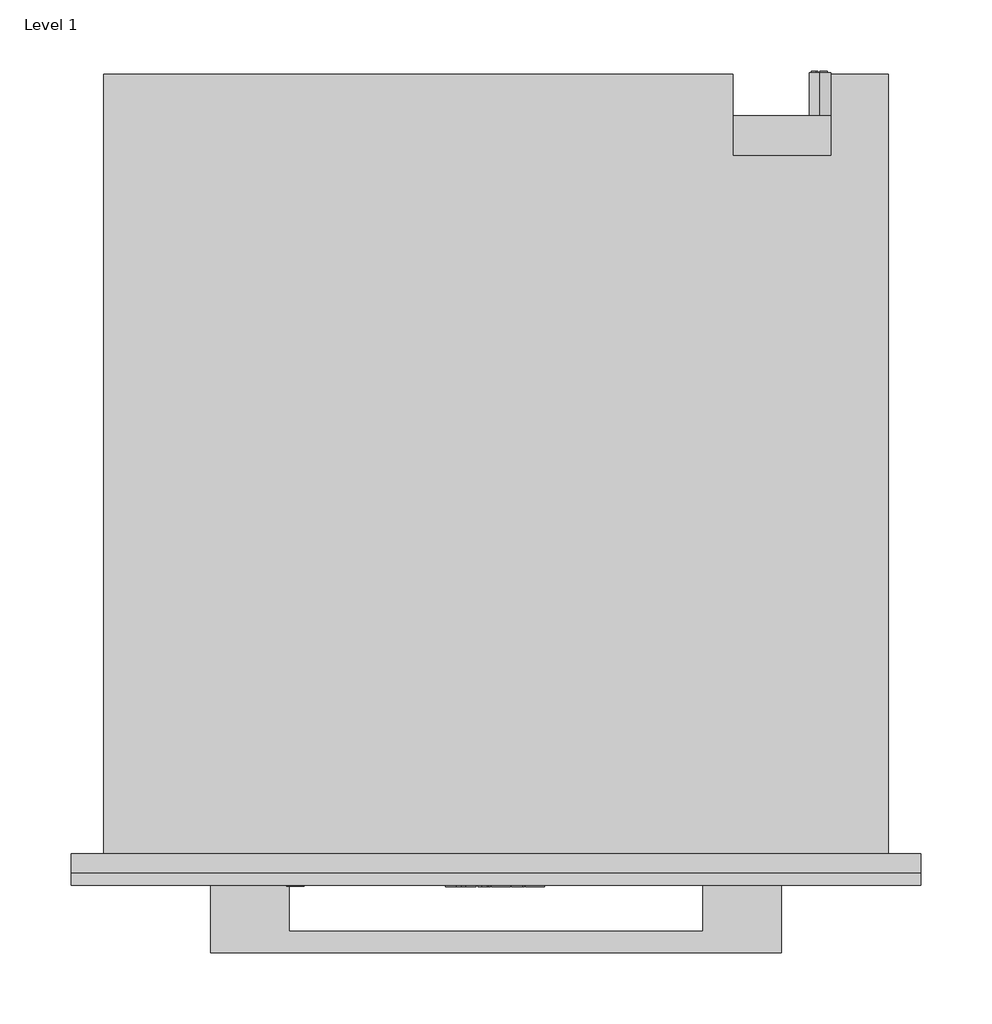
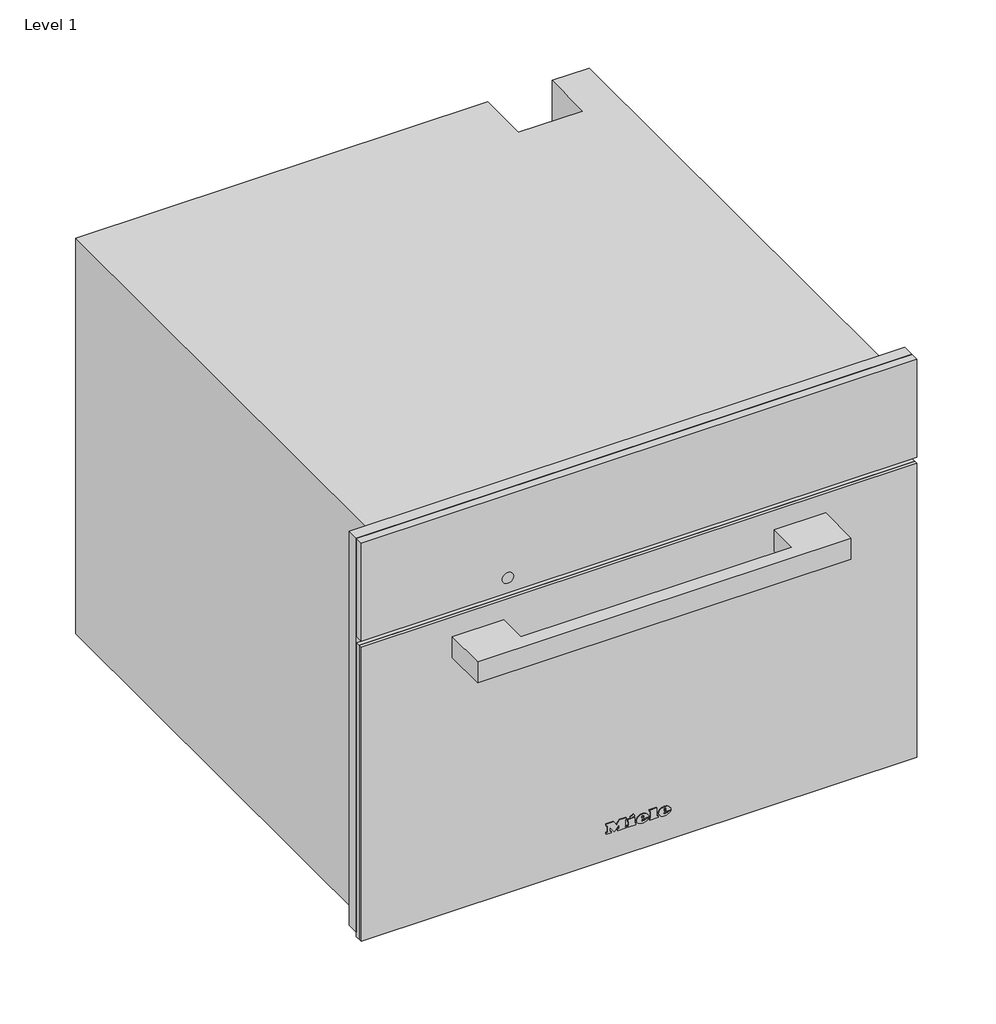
# One storey: 1 proxy.
"""IFC4 building model written with IfcOpenShell, lengths in millimetres."""

import ifcopenshell
import ifcopenshell.guid

model = None  # the IFC model being written
_history = None  # IfcOwnerHistory: only IFC2X3 demands one
_inside = {}  # id of a spatial element -> (the spatial element, [elements in it])
_under = {}  # id of a project, library or spatial element -> (it, [spatial elements below it])
_declared = {}  # id of a project -> (the project, [libraries it declares])
_typed = {}  # id of a type object -> (the type object, [elements of that type])
_made_of = {}  # id of a material, layer set ... -> (it, [elements and type objects made of it])


def new_model(schema):
    """Start an empty IFC model of exactly this schema.

    Asked for "IFC4X3", IfcOpenShell would pick the latest addendum, in which some entities
    have other attributes; the version numbers below select the first issue.
    IFC2X3 requires an IfcOwnerHistory on every rooted entity: one is made here for all.
    """
    global model, _history
    if schema == "IFC4X3":
        model = ifcopenshell.file(schema_version=(4, 3, 0, 0))
    else:
        model = ifcopenshell.file(schema=schema)
    _inside.clear()
    _under.clear()
    _declared.clear()
    _typed.clear()
    _made_of.clear()
    _history = None
    if model.schema == "IFC2X3":
        org = make("IfcOrganization", Name="unknown")
        user = make(
            "IfcPersonAndOrganization",
            ThePerson=make("IfcPerson", FamilyName="unknown"),
            TheOrganization=org,
        )
        app = make(
            "IfcApplication",
            ApplicationDeveloper=org,
            Version="unknown",
            ApplicationFullName="unknown",
            ApplicationIdentifier="unknown",
        )
        _history = make(
            "IfcOwnerHistory",
            OwningUser=user,
            OwningApplication=app,
            ChangeAction="ADDED",
            CreationDate=0,
        )
    return model


def make(cls, **values):
    """One entity of the class cls with the attributes given. An attribute that is None is left unset."""
    return model.create_entity(
        cls, **{name: value for name, value in values.items() if value is not None}
    )


def rooted(cls, **values):
    """An entity with a GlobalId (a new one), such as an element, a storey or a relation."""
    return make(cls, GlobalId=ifcopenshell.guid.new(), OwnerHistory=_history, **values)


def si_unit(unit_type, name, prefix=None):
    """IfcSIUnit, for example si_unit("LENGTHUNIT", "METRE", prefix="MILLI")."""
    return make("IfcSIUnit", UnitType=unit_type, Prefix=prefix, Name=name)


def assignment(units):
    """IfcUnitAssignment: the units of a project."""
    return None if units is None else make("IfcUnitAssignment", Units=units)


def point(xyz):
    """IfcCartesianPoint."""
    return None if xyz is None else make("IfcCartesianPoint", Coordinates=xyz)


def direction(xyz):
    """IfcDirection."""
    return None if xyz is None else make("IfcDirection", DirectionRatios=xyz)


def frame(location, z_axis=None, x_axis=None):
    """IfcAxis2Placement3D, a coordinate frame: its origin and axes. An axis left out is left unset."""
    return make(
        "IfcAxis2Placement3D",
        Location=point(location),
        Axis=direction(z_axis),
        RefDirection=direction(x_axis),
    )


def frame_2d(location, x_axis=None):
    """IfcAxis2Placement2D, a coordinate frame in the plane: its origin and x axis."""
    return make(
        "IfcAxis2Placement2D", Location=point(location), RefDirection=direction(x_axis)
    )


def origin():
    """The frame at (0, 0, 0) with its axes left unset."""
    return frame((0.0, 0.0, 0.0))


def place(relative_to, where):
    """IfcLocalPlacement: puts the frame where relative to a parent placement (None: the world)."""
    return make(
        "IfcLocalPlacement", PlacementRelTo=relative_to, RelativePlacement=where
    )


def context(
    kind, dimensions, precision=None, world=None, true_north=None, identifier=None
):
    """IfcGeometricRepresentationContext, for example the 3D "Model" context."""
    return make(
        "IfcGeometricRepresentationContext",
        ContextIdentifier=identifier,
        ContextType=kind,
        CoordinateSpaceDimension=dimensions,
        Precision=precision,
        WorldCoordinateSystem=world,
        TrueNorth=true_north,
    )


def project(units=None, contexts=None):
    """IfcProject with its units and contexts."""
    return rooted(
        "IfcProject",
        Name="project",
        RepresentationContexts=contexts,
        UnitsInContext=assignment(units),
    )


def spatial(cls, under=None, at=None, **own):
    """A site, building, storey or space (cls), placed at a placement, below another one or the project."""
    s = rooted(cls, ObjectPlacement=at, **own)
    if under is not None:
        _under.setdefault(under.id(), (under, []))[1].append(s)
    return s


def polyline(points):
    """IfcPolyline through the points."""
    return make("IfcPolyline", Points=[point(p) for p in points])


def circle_curve(where, radius):
    """IfcCircle in the frame where."""
    return make("IfcCircle", Position=where, Radius=radius)


def ellipse_curve(where, semi_axis1, semi_axis2):
    """IfcEllipse in the frame where."""
    return make(
        "IfcEllipse", Position=where, SemiAxis1=semi_axis1, SemiAxis2=semi_axis2
    )


def trimmed(basis, trim1, trim2, sense, master):
    """IfcTrimmedCurve: the piece of a basis curve between two trims."""
    return make(
        "IfcTrimmedCurve",
        BasisCurve=basis,
        Trim1=trim1,
        Trim2=trim2,
        SenseAgreement=sense,
        MasterRepresentation=master,
    )


def segment(curve, same_sense, transition):
    """IfcCompositeCurveSegment."""
    return make(
        "IfcCompositeCurveSegment",
        Transition=transition,
        SameSense=same_sense,
        ParentCurve=curve,
    )


def composite_curve(segments, self_intersect=None):
    """IfcCompositeCurve: segments joined end to end."""
    return make("IfcCompositeCurve", Segments=segments, SelfIntersect=self_intersect)


def outline(outer, holes=None, kind="AREA"):
    """IfcArbitraryClosedProfileDef: a profile drawn as a closed curve; with holes, ...WithVoids."""
    if holes is None:
        return make("IfcArbitraryClosedProfileDef", ProfileType=kind, OuterCurve=outer)
    return make(
        "IfcArbitraryProfileDefWithVoids",
        ProfileType=kind,
        OuterCurve=outer,
        InnerCurves=holes,
    )


def extrude(swept, where, along, depth):
    """IfcExtrudedAreaSolid: the profile swept, set in the frame where, extruded along a direction by depth."""
    return make(
        "IfcExtrudedAreaSolid",
        SweptArea=swept,
        Position=where,
        ExtrudedDirection=direction(along),
        Depth=depth,
    )


def faces_of(points, faces, orient=None, outer=None):
    """IfcFace entities. A face is a list of loops; a loop is a list of indices into points, from 0.

    orient and outer hold one flag for each loop. By default every Orientation is true, the
    first loop of a face is its IfcFaceOuterBound and the others are IfcFaceBound.
    """
    made = []
    for i, loops in enumerate(faces):
        bounds = []
        for j, loop in enumerate(loops):
            is_outer = j == 0 if outer is None else outer[i][j]
            bounds.append(
                make(
                    "IfcFaceOuterBound" if is_outer else "IfcFaceBound",
                    Bound=make("IfcPolyLoop", Polygon=[points[k] for k in loop]),
                    Orientation=True if orient is None else orient[i][j],
                )
            )
        made.append(make("IfcFace", Bounds=bounds))
    return made


def faceted_brep(points, faces, orient=None, outer=None, voids=None):
    """IfcFacetedBrep: a solid bounded by flat faces; with voids (closed shells), ...WithVoids."""
    shared = [point(p) for p in points]
    hull = make("IfcClosedShell", CfsFaces=faces_of(shared, faces, orient, outer))
    if voids is None:
        return make("IfcFacetedBrep", Outer=hull)
    return make(
        "IfcFacetedBrepWithVoids",
        Outer=hull,
        Voids=[
            make(cls, CfsFaces=faces_of(shared, fs, o, b)) for cls, fs, o, b in voids
        ],
    )


def shape(context_of_items, identifier, shape_type, items):
    """IfcShapeRepresentation: the items that make up one representation, for example the "Body"."""
    return make(
        "IfcShapeRepresentation",
        ContextOfItems=context_of_items,
        RepresentationIdentifier=identifier,
        RepresentationType=shape_type,
        Items=items,
    )


def source(mapping_origin, context_of_items, identifier, shape_type, items):
    """IfcRepresentationMap: a shape defined once, which mapped items show again and again."""
    return make(
        "IfcRepresentationMap",
        MappingOrigin=mapping_origin,
        MappedRepresentation=shape(context_of_items, identifier, shape_type, items),
    )


def transform(
    local_origin,
    x_axis=None,
    y_axis=None,
    z_axis=None,
    scale=None,
    scale2=None,
    scale3=None,
    uniform=True,
):
    """IfcCartesianTransformationOperator3D, or its non-uniform kind. x_axis, y_axis, z_axis: its Axis1, 2, 3."""
    if uniform:
        return make(
            "IfcCartesianTransformationOperator3D",
            Axis1=direction(x_axis),
            Axis2=direction(y_axis),
            LocalOrigin=point(local_origin),
            Scale=scale,
            Axis3=direction(z_axis),
        )
    return make(
        "IfcCartesianTransformationOperator3DnonUniform",
        Axis1=direction(x_axis),
        Axis2=direction(y_axis),
        LocalOrigin=point(local_origin),
        Scale=scale,
        Axis3=direction(z_axis),
        Scale2=scale2,
        Scale3=scale3,
    )


def mapped(mapping_source, mapping_target):
    """IfcMappedItem: shows the shape of a source again, moved by a transform."""
    return make(
        "IfcMappedItem", MappingSource=mapping_source, MappingTarget=mapping_target
    )


def made_of(thing, what):
    """Note that an element or type object is made of a material, layer set ...; save() writes the relation."""
    if what is not None:
        _made_of.setdefault(what.id(), (what, []))[1].append(thing)
    return thing


def element(
    cls,
    number,
    at=None,
    inside=None,
    cuts=None,
    type_object=None,
    material=None,
    context=None,
    identifier="Body",
    shape_type=None,
    held_by="IfcProductDefinitionShape",
    body=None,
    shapes=None,
    **own,
):
    """One element of the class cls, such as IfcWall. Its Tag is "e" and its number.

    at: its placement. inside: the storey or other place that contains it. cuts: it is an
    opening in that element (IfcRelVoidsElement). A single representation is given by context,
    identifier, shape_type and body (its items); several are given by shapes. held_by: the class
    of the entity that holds the representations. save() writes the other relations.
    """
    e = rooted(cls, Tag="e%d" % number, ObjectPlacement=at, **own)
    if body is not None:
        shapes = [shape(context, identifier, shape_type, body)]
    if shapes is not None:
        e.Representation = make(held_by, Representations=shapes)
    if inside is not None:
        _inside.setdefault(inside.id(), (inside, []))[1].append(e)
    if cuts is not None:
        rooted(
            "IfcRelVoidsElement", RelatingBuildingElement=cuts, RelatedOpeningElement=e
        )
    if type_object is not None:
        _typed.setdefault(type_object.id(), (type_object, []))[1].append(e)
    return made_of(e, material)


def aggregate(whole, parts):
    """IfcRelAggregates: a whole, such as a stair, and the parts it consists of."""
    return rooted("IfcRelAggregates", RelatingObject=whole, RelatedObjects=parts)


def save(model, path):
    """Write the relations noted so far, then the file.

    IfcRelAggregates (storeys below a building ...), IfcRelContainedInSpatialStructure (elements
    in a storey), IfcRelDefinesByType, IfcRelAssociatesMaterial and IfcRelDeclares: one each for
    every whole, place, type object, material and project.
    """
    for whole, parts in _under.values():
        aggregate(whole, parts)
    for where, things in _inside.values():
        rooted(
            "IfcRelContainedInSpatialStructure",
            RelatedElements=things,
            RelatingStructure=where,
        )
    for kind, things in _typed.values():
        rooted("IfcRelDefinesByType", RelatedObjects=things, RelatingType=kind)
    for what, things in _made_of.values():
        rooted("IfcRelAssociatesMaterial", RelatedObjects=things, RelatingMaterial=what)
    for by, libraries in _declared.values():
        rooted("IfcRelDeclares", RelatingContext=by, RelatedDefinitions=libraries)
    model.write(path)


def plane_surface(at):
    """IfcPlane: the flat surface through the origin of the frame at, square to its z axis."""
    return make("IfcPlane", Position=at)


def cylinder_surface(at, radius):
    """IfcCylindricalSurface: all points at the distance radius from the z axis of the frame at."""
    return make("IfcCylindricalSurface", Position=at, Radius=radius)


def revolved_surface(curve, axis_point, axis_direction):
    """IfcSurfaceOfRevolution: the curve turned about the line through axis_point along axis_direction."""
    return make(
        "IfcSurfaceOfRevolution",
        SweptCurve=make("IfcArbitraryOpenProfileDef", ProfileType="CURVE", Curve=curve),
        AxisPosition=make("IfcAxis1Placement", Location=point(axis_point), Axis=direction(axis_direction)),
    )


def extruded_surface(curve, direction_of_extrusion, depth):
    """IfcSurfaceOfLinearExtrusion: the curve pushed along a direction by depth."""
    return make(
        "IfcSurfaceOfLinearExtrusion",
        SweptCurve=make("IfcArbitraryOpenProfileDef", ProfileType="CURVE", Curve=curve),
        ExtrudedDirection=direction(direction_of_extrusion),
        Depth=depth,
    )


def advanced_brep(points, edges, surfaces, faces):
    """IfcAdvancedBrep: a solid bounded by faces that lie on surfaces and meet in shared edges.

    An edge is (start, end): straight between two places in points (the first is 0);
    or (start, end, curve); or (start, end, curve, False) where it runs against its curve.
    A face is (place in surfaces, loops), or (place, loops, False) where it looks against
    its surface's normal. A loop lists edges by number (the first is 1), with a minus sign
    where the edge is run from its end to its start. The first loop is the outer one.
    """
    corners = [point(p) for p in points]
    vertices = [make("IfcVertexPoint", VertexGeometry=c) for c in corners]
    made = []
    for start, end, *more in edges:
        made.append(
            make(
                "IfcEdgeCurve",
                EdgeStart=vertices[start],
                EdgeEnd=vertices[end],
                EdgeGeometry=more[0] if more else make("IfcPolyline", Points=[corners[start], corners[end]]),
                SameSense=more[1] if len(more) > 1 else True,
            )
        )
    hull = []
    for where, loops, *sense in faces:
        bounds = []
        for j, loop in enumerate(loops):
            ring = [make("IfcOrientedEdge", EdgeElement=made[abs(k) - 1], Orientation=k > 0) for k in loop]
            bounds.append(
                make(
                    "IfcFaceOuterBound" if j == 0 else "IfcFaceBound",
                    Bound=make("IfcEdgeLoop", EdgeList=ring),
                    Orientation=True,
                )
            )
        hull.append(make("IfcAdvancedFace", Bounds=bounds, FaceSurface=surfaces[where], SameSense=sense[0] if sense else True))
    return make("IfcAdvancedBrep", Outer=make("IfcClosedShell", CfsFaces=hull))


def specialty_equipment_21fb220e(model_context):
    return source(origin(), model_context, "Body", "SolidModel", [
        extrude(outline(polyline([(455.0, 297.5), (455.0, -297.5), (9.0, -297.5), (9.0, 297.5), (455.0, 297.5)]), holes=[polyline([(344.0, -272.5), (344.0, 272.5), (27.0, 272.5), (27.0, -272.5), (344.0, -272.5)])]), frame((0.0, -13.0, 0.0), z_axis=(0.0, 1.0, 0.0), x_axis=(0.0, 0.0, 1.0)), (0.0, 0.0, 1.0), 13.0),
        advanced_brep(
        [(227.0, 547.0, 255.5), (227.0, 547.0, 240.5), (221.4098301, 547.0, 243.0), (225.5, 547.0, 243.0), (225.5, 547.0, 253.0), (224.4955303, 547.0, 253.0), (224.4955303, 547.0, 244.0), (221.0315043, 547.0, 244.0), (221.0315043, 547.0, 243.4582978), (232.0, 547.0, 243.0), (232.0, 547.0, 253.0), (227.0, 547.0, 253.0), (227.0, 547.0, 252.0), (231.0, 547.0, 252.0), (231.0, 547.0, 248.5), (228.0, 547.0, 248.5), (228.0, 547.0, 247.5), (231.0, 547.0, 247.5), (231.0, 547.0, 244.0), (227.0, 547.0, 244.0), (227.0, 547.0, 243.0), (227.0, 517.0, 240.5), (227.0, 517.0, 255.5), (232.0, 548.0, 253.0), (232.0, 548.0, 243.0), (227.0, 548.0, 243.0), (227.0, 548.0, 244.0), (231.0, 548.0, 244.0), (231.0, 548.0, 247.5), (228.0, 548.0, 247.5), (228.0, 548.0, 248.5), (231.0, 548.0, 248.5), (231.0, 548.0, 252.0), (227.0, 548.0, 252.0), (227.0, 548.0, 253.0), (225.5, 548.0, 243.0), (221.0315043, 548.0, 243.0), (221.0315043, 548.0, 244.0), (224.4955303, 548.0, 244.0), (224.4955303, 548.0, 253.0), (225.5, 548.0, 253.0), (221.0315043, 547.0, 243.0)],
        [
            (0, 1, circle_curve(frame((227.0, 547.0, 248.0), z_axis=(0.0, 1.0, 0.0), x_axis=(0.0, 0.0, 1.0)), 7.5)),
            (1, 2, circle_curve(frame((227.0, 547.0, 248.0), z_axis=(0.0, 1.0, 0.0), x_axis=(0.0, 0.0, 1.0)), 7.5)),
            (2, 3),
            (3, 4),
            (4, 5),
            (5, 6),
            (6, 7),
            (7, 8),
            (8, 0, circle_curve(frame((227.0, 547.0, 248.0), z_axis=(0.0, 1.0, 0.0), x_axis=(0.0, 0.0, 1.0)), 7.5)),
            (9, 10),
            (10, 11),
            (11, 12),
            (12, 13),
            (13, 14),
            (14, 15),
            (15, 16),
            (16, 17),
            (17, 18),
            (18, 19),
            (19, 20),
            (20, 9),
            (21, 22, circle_curve(frame((227.0, 517.0, 248.0), z_axis=(0.0, -1.0, 0.0), x_axis=(0.0, 0.0, 1.0)), 7.5)),
            (22, 21, circle_curve(frame((227.0, 517.0, 248.0), z_axis=(0.0, -1.0, 0.0), x_axis=(0.0, 0.0, 1.0)), 7.5)),
            (0, 22),
            (21, 1),
            (8, 2, circle_curve(frame((227.0, 547.0, 248.0), z_axis=(0.0, -1.0, 0.0), x_axis=(0.0, 0.0, 1.0)), 7.5)),
            (23, 24),
            (24, 25),
            (25, 26),
            (26, 27),
            (27, 28),
            (28, 29),
            (29, 30),
            (30, 31),
            (31, 32),
            (32, 33),
            (33, 34),
            (34, 23),
            (35, 36),
            (36, 37),
            (37, 38),
            (38, 39),
            (39, 40),
            (40, 35),
            (8, 41),
            (41, 2),
            (23, 10),
            (9, 24),
            (20, 25),
            (19, 26),
            (18, 27),
            (17, 28),
            (16, 29),
            (15, 30),
            (14, 31),
            (13, 32),
            (12, 33),
            (11, 34),
            (35, 3),
            (41, 36),
            (7, 37),
            (6, 38),
            (5, 39),
            (4, 40),
        ],
        [
            plane_surface(frame((227.0, 547.0, 255.5), z_axis=(0.0, 1.0, 0.0), x_axis=(1.0, 0.0, 0.0))),
            plane_surface(frame((227.0, 517.0, 255.5), z_axis=(0.0, -1.0, 0.0), x_axis=(-1.0, 0.0, 0.0))),
            cylinder_surface(frame((227.0, 547.0, 248.0), z_axis=(0.0, -1.0, 0.0), x_axis=(0.0, 0.0, 1.0)), 7.5),
            plane_surface(frame((232.0, 548.0, 253.0), z_axis=(0.0, 1.0, 0.0), x_axis=(0.0, 0.0, -1.0))),
            plane_surface(frame((232.0, 547.0, 253.0), z_axis=(0.0, -1.0, 0.0), x_axis=(0.0, 0.0, 1.0))),
            plane_surface(frame((232.0, 548.0, 253.0), z_axis=(1.0, 0.0, 0.0), x_axis=(0.0, -1.0, 0.0))),
            plane_surface(frame((232.0, 548.0, 243.0), z_axis=(0.0, 0.0, -1.0), x_axis=(0.0, -1.0, 0.0))),
            plane_surface(frame((227.0, 548.0, 243.0), z_axis=(-1.0, 0.0, 0.0), x_axis=(0.0, -1.0, 0.0))),
            plane_surface(frame((227.0, 548.0, 244.0), z_axis=(0.0, 0.0, 1.0), x_axis=(0.0, -1.0, 0.0))),
            plane_surface(frame((231.0, 548.0, 244.0), z_axis=(-1.0, 0.0, 0.0), x_axis=(0.0, -1.0, 0.0))),
            plane_surface(frame((231.0, 548.0, 247.5), z_axis=(0.0, 0.0, -1.0), x_axis=(0.0, -1.0, 0.0))),
            plane_surface(frame((228.0, 548.0, 247.5), z_axis=(-1.0, 0.0, 0.0), x_axis=(0.0, -1.0, 0.0))),
            plane_surface(frame((228.0, 548.0, 248.5), z_axis=(0.0, 0.0, 1.0), x_axis=(0.0, -1.0, 0.0))),
            plane_surface(frame((231.0, 548.0, 248.5), z_axis=(-1.0, 0.0, 0.0), x_axis=(0.0, -1.0, 0.0))),
            plane_surface(frame((231.0, 548.0, 252.0), z_axis=(0.0, 0.0, -1.0), x_axis=(0.0, -1.0, 0.0))),
            plane_surface(frame((227.0, 548.0, 252.0), z_axis=(-1.0, 0.0, 0.0), x_axis=(0.0, -1.0, 0.0))),
            plane_surface(frame((227.0, 548.0, 253.0), z_axis=(0.0, 0.0, 1.0), x_axis=(0.0, -1.0, 0.0))),
            plane_surface(frame((225.5, 548.0, 243.0), z_axis=(0.0, 0.0, -1.0), x_axis=(0.0, -1.0, 0.0))),
            plane_surface(frame((221.0315043, 548.0, 243.0), z_axis=(-1.0, 0.0, 0.0), x_axis=(0.0, -1.0, 0.0))),
            plane_surface(frame((221.0315043, 548.0, 244.0), z_axis=(0.0, 0.0, 1.0), x_axis=(0.0, -1.0, 0.0))),
            plane_surface(frame((224.4955303, 548.0, 244.0), z_axis=(-1.0, 0.0, 0.0), x_axis=(0.0, -1.0, 0.0))),
            plane_surface(frame((224.4955303, 548.0, 253.0), z_axis=(0.0, 0.0, 1.0), x_axis=(0.0, -1.0, 0.0))),
            plane_surface(frame((225.5, 548.0, 253.0), z_axis=(1.0, 0.0, 0.0), x_axis=(0.0, -1.0, 0.0))),
        ],
        [
            (0, [[1, 2, 3, 4, 5, 6, 7, 8, 9], [10, 11, 12, 13, 14, 15, 16, 17, 18, 19, 20, 21]]),
            (1, [[22, 23]]),
            (2, [[-1, 24, -22, 25]]),
            (2, [[-23, -24, -9, 26, -2, -25]]),
            (3, [[27, 28, 29, 30, 31, 32, 33, 34, 35, 36, 37, 38]]),
            (3, [[39, 40, 41, 42, 43, 44]]),
            (4, [[45, 46, -26]]),
            (5, [[-27, 47, -10, 48]]),
            (6, [[-28, -48, -21, 49]]),
            (7, [[-29, -49, -20, 50]]),
            (8, [[-30, -50, -19, 51]]),
            (9, [[-31, -51, -18, 52]]),
            (10, [[-32, -52, -17, 53]]),
            (11, [[-33, -53, -16, 54]]),
            (12, [[-34, -54, -15, 55]]),
            (13, [[-35, -55, -14, 56]]),
            (14, [[-36, -56, -13, 57]]),
            (15, [[-37, -57, -12, 58]]),
            (16, [[-38, -58, -11, -47]]),
            (17, [[-39, 59, -3, -46, 60]]),
            (18, [[-40, -60, -45, -8, 61]]),
            (19, [[-41, -61, -7, 62]]),
            (20, [[-42, -62, -6, 63]]),
            (21, [[-43, -63, -5, 64]]),
            (22, [[-44, -64, -4, -59]]),
        ],
    ),
        faceted_brep([(-275.0, 546.0, 0.0), (-275.0, 546.0, 448.0), (166.0, 546.0, 448.0), (166.0, 546.0, 0.0), (235.0, 546.0, 448.0), (275.0, 546.0, 448.0), (275.0, 546.0, 338.0), (235.0, 546.0, 338.0), (275.0, 0.0, 448.0), (-275.0, 0.0, 448.0), (-275.0, 0.0, 0.0), (275.0, 0.0, 0.0), (-272.5, 0.0, 344.0), (272.5, 0.0, 344.0), (272.5, 0.0, 27.0), (-272.5, 0.0, 27.0), (235.0, 489.0, 448.0), (166.0, 489.0, 448.0), (166.0, 517.0, 0.0), (275.0, 517.0, 0.0), (275.0, 517.0, 338.0), (272.5, 17.0, 344.0), (-272.5, 17.0, 344.0), (-272.5, 17.0, 27.0), (272.5, 17.0, 27.0), (231.0, 17.0, 307.0), (231.0, 17.0, 65.0), (-231.0, 17.0, 65.0), (-231.0, 17.0, 307.0), (231.0, 411.0, 307.0), (-231.0, 411.0, 307.0), (-231.0, 411.0, 65.0), (231.0, 411.0, 65.0), (235.0, 489.0, 337.0), (166.0, 489.0, 337.0), (166.0, 517.0, 337.0), (235.0, 517.0, 337.0), (235.0, 517.0, 338.0)], [[[0, 1, 2, 3]], [[4, 5, 6, 7]], [[8, 9, 10, 11], [12, 13, 14, 15]], [[9, 8, 5, 4, 16, 17, 2, 1]], [[1, 0, 10, 9]], [[11, 10, 0, 3, 18, 19]], [[8, 11, 19, 20, 6, 5]], [[21, 22, 23, 24], [25, 26, 27, 28]], [[22, 21, 13, 12]], [[23, 22, 12, 15]], [[24, 23, 15, 14]], [[21, 24, 14, 13]], [[29, 30, 31, 32]], [[29, 32, 26, 25]], [[32, 31, 27, 26]], [[31, 30, 28, 27]], [[30, 29, 25, 28]], [[16, 33, 34, 17]], [[17, 34, 35, 18, 3, 2]], [[34, 33, 36, 35]], [[33, 16, 4, 7, 37, 36]], [[37, 20, 19, 18, 35, 36]], [[20, 37, 7, 6]]]),
        advanced_brep(
        [(26.2998, -23.0, 36.7018), (26.2998, -23.0, 37.8532), (33.9264, -23.0, 37.8532), (20.6568, -23.0, 37.8532), (23.7918, -23.0, 34.0), (33.7326, -23.0, 36.7018), (30.2898, -23.0, 36.7018), (27.5766, -23.0, 35.425), (26.2998, -23.0, 39.3124), (26.2998, -23.0, 40.555), (28.2492, -23.0, 40.555), (28.2492, -23.0, 39.3124), (26.2998, -22.0, 36.7018), (27.5766, -22.0, 35.425), (30.2898, -22.0, 36.7018), (33.7326, -22.0, 36.7018), (23.7918, -22.0, 34.0), (20.6568, -22.0, 37.8532), (33.9264, -22.0, 37.8532), (26.2998, -22.0, 37.8532), (26.2998, -22.0, 39.3124), (28.2492, -22.0, 39.3124), (28.2492, -22.0, 40.555), (26.2998, -22.0, 40.555)],
        [
            (0, 1),
            (1, 2),
            (2, 3, ellipse_curve(frame((27.2916, -23.0, 37.8532), z_axis=(0.0, -1.0, 0.0), x_axis=(-1.0, 0.0, 0.0)), 6.6348, 5.4834)),
            (3, 4, circle_curve(frame((25.0686622, -23.0, 38.2408), z_axis=(0.0, -1.0, 0.0), x_axis=(0.0, 0.0, -1.0)), 4.4288556)),
            (4, 5, circle_curve(frame((27.1587808, -23.0, 41.2504), z_axis=(0.0, -1.0, 0.0), x_axis=(0.0, 0.0, -1.0)), 7.9940516)),
            (5, 6),
            (6, 7, circle_curve(frame((28.1338588, -23.0, 37.762), z_axis=(0.0, 1.0, 0.0), x_axis=(0.0, 0.0, -1.0)), 2.4025208)),
            (7, 0, circle_curve(frame((27.5766, -23.0, 36.7018), z_axis=(0.0, 1.0, 0.0), x_axis=(0.0, 0.0, -1.0)), 1.2768)),
            (8, 9),
            (9, 10, circle_curve(frame((27.2745, -23.0, 40.555), z_axis=(0.0, 1.0, 0.0), x_axis=(0.0, 0.0, -1.0)), 0.9747)),
            (10, 11),
            (11, 8),
            (12, 13, circle_curve(frame((27.5766, -22.0, 36.7018), z_axis=(0.0, -1.0, 0.0), x_axis=(0.0, 0.0, -1.0)), 1.2768)),
            (13, 14, circle_curve(frame((28.1338588, -22.0, 37.762), z_axis=(0.0, -1.0, 0.0), x_axis=(0.0, 0.0, -1.0)), 2.4025208)),
            (14, 15),
            (15, 16, circle_curve(frame((27.1587808, -22.0, 41.2504), z_axis=(0.0, 1.0, 0.0), x_axis=(0.0, 0.0, -1.0)), 7.9940516)),
            (16, 17, circle_curve(frame((25.0686622, -22.0, 38.2408), z_axis=(0.0, 1.0, 0.0), x_axis=(0.0, 0.0, -1.0)), 4.4288556)),
            (17, 18, ellipse_curve(frame((27.2916, -22.0, 37.8532), z_axis=(0.0, 1.0, 0.0), x_axis=(-1.0, 0.0, 0.0)), 6.6348, 5.4834)),
            (18, 19),
            (19, 12),
            (20, 21),
            (21, 22),
            (22, 23, circle_curve(frame((27.2745, -22.0, 40.555), z_axis=(0.0, -1.0, 0.0), x_axis=(0.0, 0.0, -1.0)), 0.9747)),
            (23, 20),
            (0, 12),
            (19, 1),
            (18, 2),
            (5, 15),
            (14, 6),
            (17, 3),
            (13, 7),
            (16, 4),
            (8, 20),
            (23, 9),
            (22, 10),
            (21, 11),
        ],
        [
            plane_surface(frame((26.2998, -23.0, 37.8532), z_axis=(0.0, -1.0, 0.0), x_axis=(0.0, 0.0, 1.0))),
            plane_surface(frame((26.2998, -22.0, 37.8532), z_axis=(0.0, 1.0, 0.0), x_axis=(0.0, 0.0, -1.0))),
            plane_surface(frame((26.2998, -23.0, 36.7018), z_axis=(1.0, 0.0, 0.0), x_axis=(0.0, 1.0, 0.0))),
            plane_surface(frame((26.2998, -23.0, 37.8532), z_axis=(0.0, 0.0, -1.0), x_axis=(0.0, 1.0, 0.0))),
            plane_surface(frame((33.7326, -23.0, 36.7018), z_axis=(0.0, 0.0, 1.0), x_axis=(0.0, 1.0, 0.0))),
            extruded_surface(trimmed(ellipse_curve(frame((27.2916, -21.0, 37.8532), z_axis=(0.0, -1.0, 0.0), x_axis=(-1.0, 0.0, 0.0)), 6.6348, 5.4834), [point((33.9264, -21.0, 37.8532))], [point((20.6568, -21.0, 37.8532))], True, "CARTESIAN"), (0.0, -1.0, 0.0), 1.0),
            revolved_surface(polyline([(28.1338588, -22.0, 35.3594792), (28.1338588, -23.0, 35.3594792)]), (28.1338588, -22.0, 37.762), (0.0, 1.0, 0.0)),
            revolved_surface(polyline([(27.5766, -22.0, 35.425), (27.5766, -23.0, 35.425)]), (27.5766, -22.0, 36.7018), (0.0, 1.0, 0.0)),
            cylinder_surface(frame((25.0686622, -22.0, 38.2408), z_axis=(0.0, -1.0, 0.0), x_axis=(0.0, 0.0, -1.0)), 4.4288556),
            cylinder_surface(frame((27.1587808, -22.0, 41.2504), z_axis=(0.0, -1.0, 0.0), x_axis=(0.0, 0.0, -1.0)), 7.9940516),
            plane_surface(frame((26.2998, -23.0, 39.3124), z_axis=(1.0, 0.0, 0.0), x_axis=(0.0, 1.0, 0.0))),
            revolved_surface(polyline([(27.2745, -22.0, 39.5803), (27.2745, -23.0, 39.5803)]), (27.2745, -22.0, 40.555), (0.0, 1.0, 0.0)),
            plane_surface(frame((28.2492, -23.0, 40.555), z_axis=(-1.0, 0.0, 0.0), x_axis=(0.0, 1.0, 0.0))),
            plane_surface(frame((28.2492, -23.0, 39.3124), z_axis=(0.0, 0.0, 1.0), x_axis=(0.0, 1.0, 0.0))),
        ],
        [
            (0, [[1, 2, 3, 4, 5, 6, 7, 8], [9, 10, 11, 12]]),
            (1, [[13, 14, 15, 16, 17, 18, 19, 20], [21, 22, 23, 24]]),
            (2, [[-1, 25, -20, 26]]),
            (3, [[-2, -26, -19, 27]]),
            (4, [[-6, 28, -15, 29]]),
            (5, [[-3, -27, -18, 30]]),
            (6, [[-7, -29, -14, 31]]),
            (7, [[-8, -31, -13, -25]]),
            (8, [[-4, -30, -17, 32]]),
            (9, [[-5, -32, -16, -28]]),
            (10, [[-9, 33, -24, 34]]),
            (11, [[-10, -34, -23, 35]]),
            (12, [[-11, -35, -22, 36]]),
            (13, [[-12, -36, -21, -33]]),
        ],
    ),
        advanced_brep(
        [(2.508, -23.0, 36.7018), (2.508, -23.0, 37.8532), (10.1346, -23.0, 37.8532), (-3.135, -23.0, 37.8532), (0.0, -23.0, 34.0), (9.9408, -23.0, 36.7018), (6.498, -23.0, 36.7018), (3.7848, -23.0, 35.425), (2.508, -23.0, 39.3124), (2.508, -23.0, 40.555), (4.4574, -23.0, 40.555), (4.4574, -23.0, 39.3124), (2.508, -22.0, 36.7018), (3.7848, -22.0, 35.425), (6.498, -22.0, 36.7018), (9.9408, -22.0, 36.7018), (0.0, -22.0, 34.0), (-3.135, -22.0, 37.8532), (10.1346, -22.0, 37.8532), (2.508, -22.0, 37.8532), (2.508, -22.0, 39.3124), (4.4574, -22.0, 39.3124), (4.4574, -22.0, 40.555), (2.508, -22.0, 40.555)],
        [
            (0, 1),
            (1, 2),
            (2, 3, ellipse_curve(frame((3.4998, -23.0, 37.8532), z_axis=(0.0, -1.0, 0.0), x_axis=(-1.0, 0.0, 0.0)), 6.6348, 5.4834)),
            (3, 4, circle_curve(frame((1.2768622, -23.0, 38.2408), z_axis=(0.0, -1.0, 0.0), x_axis=(0.0, 0.0, -1.0)), 4.4288556)),
            (4, 5, circle_curve(frame((3.3669808, -23.0, 41.2504), z_axis=(0.0, -1.0, 0.0), x_axis=(0.0, 0.0, -1.0)), 7.9940516)),
            (5, 6),
            (6, 7, circle_curve(frame((4.3420588, -23.0, 37.762), z_axis=(0.0, 1.0, 0.0), x_axis=(0.0, 0.0, -1.0)), 2.4025208)),
            (7, 0, circle_curve(frame((3.7848, -23.0, 36.7018), z_axis=(0.0, 1.0, 0.0), x_axis=(0.0, 0.0, -1.0)), 1.2768)),
            (8, 9),
            (9, 10, circle_curve(frame((3.4827, -23.0, 40.555), z_axis=(0.0, 1.0, 0.0), x_axis=(0.0, 0.0, -1.0)), 0.9747)),
            (10, 11),
            (11, 8),
            (12, 13, circle_curve(frame((3.7848, -22.0, 36.7018), z_axis=(0.0, -1.0, 0.0), x_axis=(0.0, 0.0, -1.0)), 1.2768)),
            (13, 14, circle_curve(frame((4.3420588, -22.0, 37.762), z_axis=(0.0, -1.0, 0.0), x_axis=(0.0, 0.0, -1.0)), 2.4025208)),
            (14, 15),
            (15, 16, circle_curve(frame((3.3669808, -22.0, 41.2504), z_axis=(0.0, 1.0, 0.0), x_axis=(0.0, 0.0, -1.0)), 7.9940516)),
            (16, 17, circle_curve(frame((1.2768622, -22.0, 38.2408), z_axis=(0.0, 1.0, 0.0), x_axis=(0.0, 0.0, -1.0)), 4.4288556)),
            (17, 18, ellipse_curve(frame((3.4998, -22.0, 37.8532), z_axis=(0.0, 1.0, 0.0), x_axis=(-1.0, 0.0, 0.0)), 6.6348, 5.4834)),
            (18, 19),
            (19, 12),
            (20, 21),
            (21, 22),
            (22, 23, circle_curve(frame((3.4827, -22.0, 40.555), z_axis=(0.0, -1.0, 0.0), x_axis=(0.0, 0.0, -1.0)), 0.9747)),
            (23, 20),
            (0, 12),
            (19, 1),
            (18, 2),
            (5, 15),
            (14, 6),
            (17, 3),
            (13, 7),
            (16, 4),
            (8, 20),
            (23, 9),
            (22, 10),
            (21, 11),
        ],
        [
            plane_surface(frame((2.508, -23.0, 37.8532), z_axis=(0.0, -1.0, 0.0), x_axis=(0.0, 0.0, 1.0))),
            plane_surface(frame((2.508, -22.0, 37.8532), z_axis=(0.0, 1.0, 0.0), x_axis=(0.0, 0.0, -1.0))),
            plane_surface(frame((2.508, -23.0, 36.7018), z_axis=(1.0, 0.0, 0.0), x_axis=(0.0, 1.0, 0.0))),
            plane_surface(frame((2.508, -23.0, 37.8532), z_axis=(0.0, 0.0, -1.0), x_axis=(0.0, 1.0, 0.0))),
            plane_surface(frame((9.9408, -23.0, 36.7018), z_axis=(0.0, 0.0, 1.0), x_axis=(0.0, 1.0, 0.0))),
            extruded_surface(trimmed(ellipse_curve(frame((3.4998, -21.0, 37.8532), z_axis=(0.0, -1.0, 0.0), x_axis=(-1.0, 0.0, 0.0)), 6.6348, 5.4834), [point((10.1346, -21.0, 37.8532))], [point((-3.135, -21.0, 37.8532))], True, "CARTESIAN"), (0.0, -1.0, 0.0), 1.0),
            revolved_surface(polyline([(4.3420588, -22.0, 35.3594792), (4.3420588, -23.0, 35.3594792)]), (4.3420588, -22.0, 37.762), (0.0, 1.0, 0.0)),
            revolved_surface(polyline([(3.7848, -22.0, 35.425), (3.7848, -23.0, 35.425)]), (3.7848, -22.0, 36.7018), (0.0, 1.0, 0.0)),
            cylinder_surface(frame((1.2768622, -22.0, 38.2408), z_axis=(0.0, -1.0, 0.0), x_axis=(0.0, 0.0, -1.0)), 4.4288556),
            cylinder_surface(frame((3.3669808, -22.0, 41.2504), z_axis=(0.0, -1.0, 0.0), x_axis=(0.0, 0.0, -1.0)), 7.9940516),
            plane_surface(frame((2.508, -23.0, 39.3124), z_axis=(1.0, 0.0, 0.0), x_axis=(0.0, 1.0, 0.0))),
            revolved_surface(polyline([(3.4827, -22.0, 39.5803), (3.4827, -23.0, 39.5803)]), (3.4827, -22.0, 40.555), (0.0, 1.0, 0.0)),
            plane_surface(frame((4.4574, -23.0, 40.555), z_axis=(-1.0, 0.0, 0.0), x_axis=(0.0, 1.0, 0.0))),
            plane_surface(frame((4.4574, -23.0, 39.3124), z_axis=(0.0, 0.0, 1.0), x_axis=(0.0, 1.0, 0.0))),
        ],
        [
            (0, [[1, 2, 3, 4, 5, 6, 7, 8], [9, 10, 11, 12]]),
            (1, [[13, 14, 15, 16, 17, 18, 19, 20], [21, 22, 23, 24]]),
            (2, [[-1, 25, -20, 26]]),
            (3, [[-2, -26, -19, 27]]),
            (4, [[-6, 28, -15, 29]]),
            (5, [[-3, -27, -18, 30]]),
            (6, [[-7, -29, -14, 31]]),
            (7, [[-8, -31, -13, -25]]),
            (8, [[-4, -30, -17, 32]]),
            (9, [[-5, -32, -16, -28]]),
            (10, [[-9, 33, -24, 34]]),
            (11, [[-10, -34, -23, 35]]),
            (12, [[-11, -35, -22, 36]]),
            (13, [[-12, -36, -21, -33]]),
        ],
    ),
        extrude(outline(polyline([(44.7274, -9.9522), (42.8806, -9.0858), (44.6818, -5.2212), (46.5286, -6.0762), (44.7274, -9.9522)])), frame((0.0, -23.0, 0.0), z_axis=(0.0, 1.0, 0.0), x_axis=(0.0, 0.0, 1.0)), (0.0, 0.0, 1.0), 1.0),
        extrude(outline(polyline([(42.6298, -12.768), (40.5892, -12.768), (40.5892, -11.4114), (35.9152, -11.4114), (35.9152, -12.768), (34.0, -12.768), (34.0, -3.7734), (35.9152, -3.7734), (35.9152, -5.0958), (42.6298, -5.0958), (42.6298, -12.768)])), frame((0.0, -23.0, 0.0), z_axis=(0.0, 1.0, 0.0), x_axis=(0.0, 0.0, 1.0)), (0.0, 0.0, 1.0), 1.0),
        extrude(outline(polyline([(43.5418, 10.773), (43.5418, 12.141), (35.9152, 12.141), (35.9152, 10.773), (34.0, 10.773), (34.0, 20.0184), (35.9152, 20.0184), (35.9152, 18.6162), (45.4, 18.6162), (45.4, 10.773), (43.5418, 10.773)])), frame((0.0, -23.0, 0.0), z_axis=(0.0, 1.0, 0.0), x_axis=(0.0, 0.0, 1.0)), (0.0, 0.0, 1.0), 1.0),
        extrude(outline(polyline([(43.5418, -35.4882), (43.5418, -34.1088), (35.9152, -34.1088), (35.9152, -35.4882), (34.0, -35.4882), (34.0, -30.4722), (35.9152, -30.4722), (35.9152, -31.8402), (40.7429247, -31.8402), (34.0, -26.7444), (40.9402223, -21.6258), (35.9152, -21.6258), (35.9152, -23.028), (34.0, -23.028), (34.0, -13.9308), (35.9152, -13.9308), (35.9152, -15.3786), (43.5418, -15.3786), (43.5418, -13.9308), (45.4, -13.9308), (45.4, -20.8734), (41.125, -24.2022), (45.4, -27.5424), (45.4, -35.4882), (43.5418, -35.4882)])), frame((0.0, -23.0, 0.0), z_axis=(0.0, 1.0, 0.0), x_axis=(0.0, 0.0, 1.0)), (0.0, 0.0, 1.0), 1.0),
        extrude(outline(polyline([(297.5, -22.0), (-297.5, -22.0), (-297.5, -13.0), (297.5, -13.0), (297.5, -22.0)])), frame((0.0, 0.0, 344.0), z_axis=(0.0, 0.0, 1.0), x_axis=(1.0, 0.0, 0.0)), (0.0, 0.0, 1.0), 111.0),
        extrude(outline(composite_curve([segment(trimmed(circle_curve(frame_2d((361.0, -140.5745637)), 6.0), [point((361.0, -146.5745637))], [point((361.0, -134.5745637))], False, "CARTESIAN"), True, "CONTINUOUS"), segment(trimmed(circle_curve(frame_2d((361.0, -140.5745637)), 6.0), [point((361.0, -134.5745637))], [point((361.0, -146.5745637))], False, "CARTESIAN"), True, "CONTINUOUS")], self_intersect=False)), frame((0.0, -22.5, 0.0), z_axis=(0.0, 1.0, 0.0), x_axis=(0.0, 0.0, 1.0)), (0.0, 0.0, 1.0), 1.0),
        extrude(outline(polyline([(-200.0, -69.0), (-200.0, -22.0), (-145.0, -22.0), (-145.0, -54.0), (145.0, -54.0), (145.0, -22.0), (200.0, -22.0), (200.0, -69.0), (-200.0, -69.0)])), frame((0.0, 0.0, 291.0), z_axis=(0.0, 0.0, 1.0), x_axis=(1.0, 0.0, 0.0)), (0.0, 0.0, 1.0), 24.0),
        extrude(outline(polyline([(297.5, -18.0), (-297.5, -18.0), (-297.5, -13.0), (297.5, -13.0), (297.5, -18.0)])), frame((0.0, 0.0, 4.0), z_axis=(0.0, 0.0, 1.0), x_axis=(1.0, 0.0, 0.0)), (0.0, 0.0, 1.0), 333.0),
        extrude(outline(polyline([(-297.5, -18.0), (297.5, -18.0), (297.5, -22.0), (-297.5, -22.0), (-297.5, -18.0)])), frame((0.0, 0.0, 4.0), z_axis=(0.0, 0.0, 1.0), x_axis=(1.0, 0.0, 0.0)), (0.0, 0.0, 1.0), 333.0),
    ])


model = new_model("IFC4")

# Units and contexts
model_context = context("Model", 3, world=origin())
ifc_project = project(units=[si_unit("LENGTHUNIT", "METRE", prefix="MILLI")], contexts=[model_context])

# Site, building, storey
site = spatial("IfcSite", under=ifc_project)
building = spatial("IfcBuilding", under=site)
storey = spatial("IfcBuildingStorey", under=building, Name="Level 1", Elevation=0.0)

# Proxy
placement = place(None, origin())
specialty_equipment_shape = specialty_equipment_21fb220e(model_context)
element("IfcBuildingElementProxy", 1, Name="11106980_D_DGC7440_GRGR : 23744032_D_11106980_DGC7440_GRGR", ObjectType="11106980_D_DGC7440_GRGR : 23744032_D_11106980_DGC7440_GRGR", at=placement, inside=storey, context=model_context, shape_type="MappedRepresentation", body=[
    mapped(specialty_equipment_shape, transform((0.0, 0.0, 0.0), x_axis=(1.0, 0.0, 0.0), y_axis=(0.0, 1.0, 0.0), z_axis=(0.0, 0.0, 1.0))),
])

save(model, "model.ifc")
